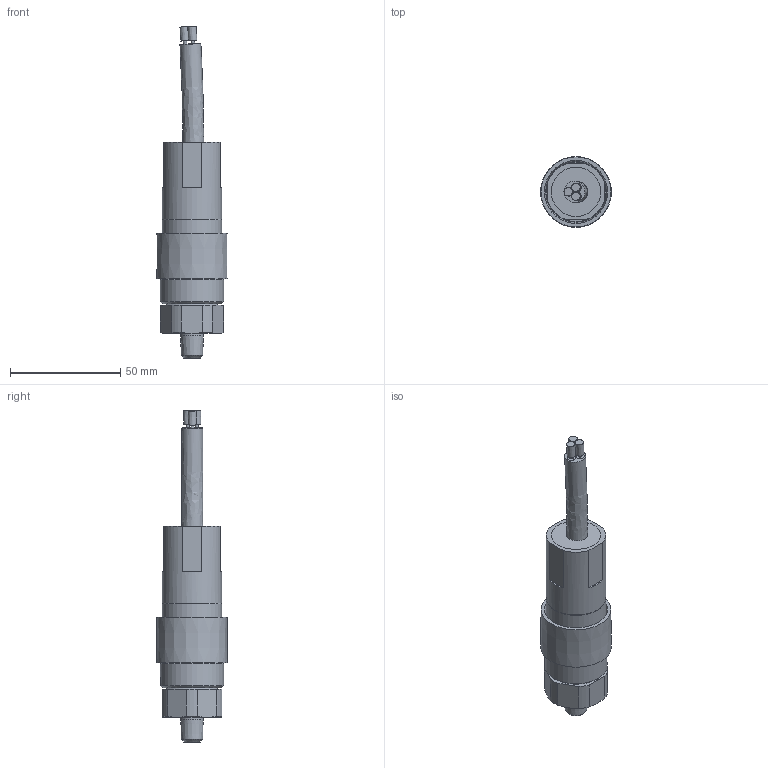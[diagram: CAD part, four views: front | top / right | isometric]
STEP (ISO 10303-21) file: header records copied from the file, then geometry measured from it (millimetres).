
FILE_DESCRIPTION (( 'STEP AP214' ), '1' );
FILE_NAME ('10-G10_G12.STEP', '2025-03-04T19:09:11', ( '' ), ( '' ), 'SwSTEP 2.0', 'SolidWorks 2023', '' );
FILE_SCHEMA (( 'AUTOMOTIVE_DESIGN' ));
Length unit declared in the file: inch
Products named in the file (1): 10-G10_G12
Bounding box: 32.11 x 32.11 x 150.43 mm (x, y, z)
Surface area: 18913 mm2 (no closed solid volume)
Topology: 0 solids, 18 shells, 77 faces, 164 edges, 107 vertices
Faces by surface type: plane 34, cone 17, cylinder 15, bspline 10, torus 1
Full cylindrical faces by diameter (mm): 3.175 x1, 3.556 x1, 10.287 x1, 22.352 x2, 26.873 x2, 26.924 x1, 28.575 x1
Entity records: 2266 total; most frequent: CARTESIAN_POINT 734, DIRECTION 334, ORIENTED_EDGE 234, AXIS2_PLACEMENT_3D 150, EDGE_CURVE 129, EDGE_LOOP 120, VERTEX_POINT 103, FACE_OUTER_BOUND 97
